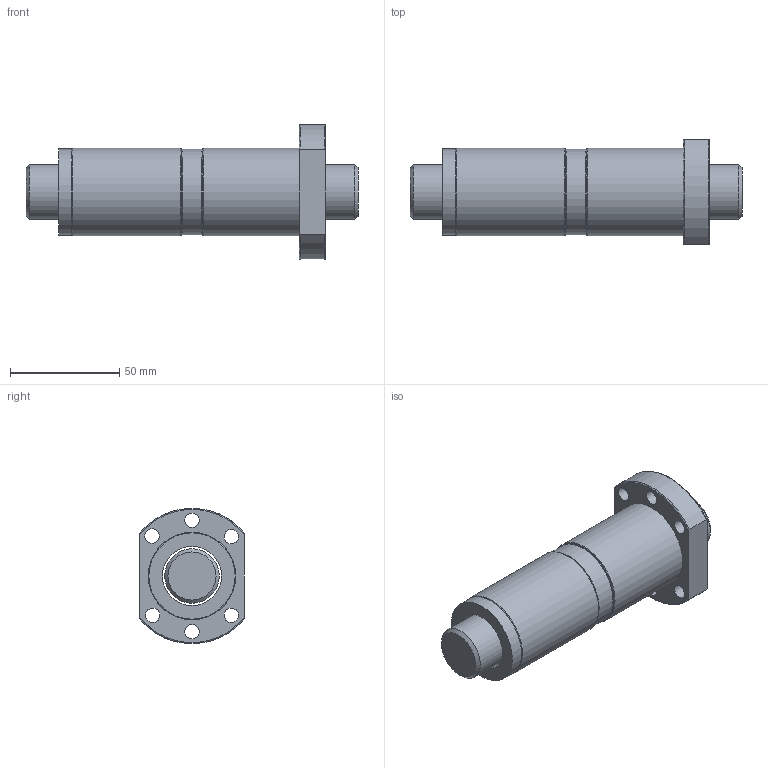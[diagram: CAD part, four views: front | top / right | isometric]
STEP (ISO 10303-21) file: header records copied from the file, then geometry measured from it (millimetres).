
FILE_DESCRIPTION(/* description */ (''),/* implementation_level */ '2;1');
FILE_NAME(/* name */ 'DFS2510',/* time_stamp */ '2007-10-26T13:38:47+08:00',/* author */ (''),/* organization */ (''),/* preprocessor_version */ 'ST-DEVELOPER v9',/* originating_system */ 'UGS - NX 3.0',/* authorisation */ '');
FILE_SCHEMA (('CONFIG_CONTROL_DESIGN'));
Length unit declared in the file: millimetre
Products named in the file (1): jaso15A4i32d
Bounding box: 152 x 48 x 61.8 mm (x, y, z)
Volume: 171242 mm3; surface area: 50953.9 mm2
Topology: 6 solids, 6 shells, 47 faces, 98 edges, 65 vertices
Faces by surface type: cylinder 20, plane 16, torus 9, cone 2
Full cylindrical faces by diameter (mm): 6.6 x6, 25 x1, 27 x5, 39 x1, 39.5 x3, 40 x2
Entity records: 1344 total; most frequent: CARTESIAN_POINT 318, DIRECTION 206, ORIENTED_EDGE 134, AXIS2_PLACEMENT_3D 99, EDGE_LOOP 96, FACE_BOUND 72, EDGE_CURVE 67, VERTEX_POINT 59
